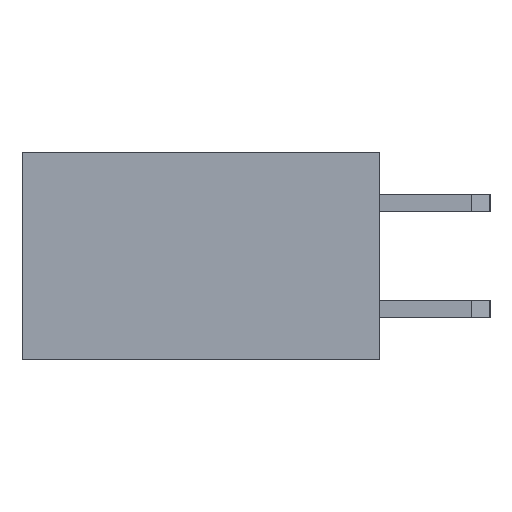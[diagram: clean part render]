
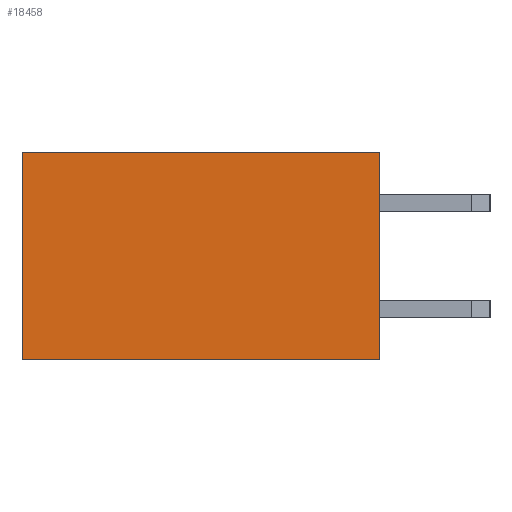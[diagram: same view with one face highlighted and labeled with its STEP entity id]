
A CAD part, left-side view. The second image highlights one B-rep face of the part: STEP entity #18458.
In plain terms, the highlighted planar face has unit normal (-1, 0, 0).
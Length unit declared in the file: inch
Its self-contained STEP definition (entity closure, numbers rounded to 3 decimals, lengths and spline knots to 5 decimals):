
#1627=ORIENTED_EDGE('',*,*,#6424,.T.);
#1628=ORIENTED_EDGE('',*,*,#5415,.F.);
#1629=ORIENTED_EDGE('',*,*,#6497,.F.);
#1630=ORIENTED_EDGE('',*,*,#5407,.T.);
#5407=EDGE_CURVE('',#8024,#8023,#9767,.T.);
#5415=EDGE_CURVE('',#8031,#8032,#9775,.T.);
#6424=EDGE_CURVE('',#8023,#8032,#10784,.T.);
#6497=EDGE_CURVE('',#8024,#8031,#10857,.T.);
#8023=VERTEX_POINT('',#24863);
#8024=VERTEX_POINT('',#24865);
#8031=VERTEX_POINT('',#24880);
#8032=VERTEX_POINT('',#24882);
#9767=LINE('',#24864,#12383);
#9775=LINE('',#24881,#12391);
#10784=LINE('',#26898,#13400);
#10857=LINE('',#27008,#13473);
#12383=VECTOR('',#20203,39.37008);
#12391=VECTOR('',#20213,39.37008);
#13400=VECTOR('',#21800,39.37008);
#13473=VECTOR('',#21947,39.37008);
#15182=EDGE_LOOP('',(#1627,#1628,#1629,#1630));
#16346=FACE_BOUND('',#15182,.T.);
#17510=PLANE('',#19432);
#18458=ADVANCED_FACE('',(#16346),#17510,.F.);
#19432=AXIS2_PLACEMENT_3D('',#27007,#21945,#21946);
#20203=DIRECTION('',(0.,-1.,0.));
#20213=DIRECTION('',(0.,-1.,0.));
#21800=DIRECTION('',(0.,0.,1.));
#21945=DIRECTION('',(1.,0.,0.));
#21946=DIRECTION('',(0.,0.,-1.));
#21947=DIRECTION('',(0.,0.,1.));
#24863=CARTESIAN_POINT('',(-1.81,0.,-0.0975));
#24864=CARTESIAN_POINT('',(-1.81,0.335,-0.0975));
#24865=CARTESIAN_POINT('',(-1.81,0.335,-0.0975));
#24880=CARTESIAN_POINT('',(-1.81,0.335,0.0975));
#24881=CARTESIAN_POINT('',(-1.81,0.335,0.0975));
#24882=CARTESIAN_POINT('',(-1.81,0.,0.0975));
#26898=CARTESIAN_POINT('',(-1.81,0.,-0.0975));
#27007=CARTESIAN_POINT('',(-1.81,0.335,-0.0975));
#27008=CARTESIAN_POINT('',(-1.81,0.335,-0.0975));
